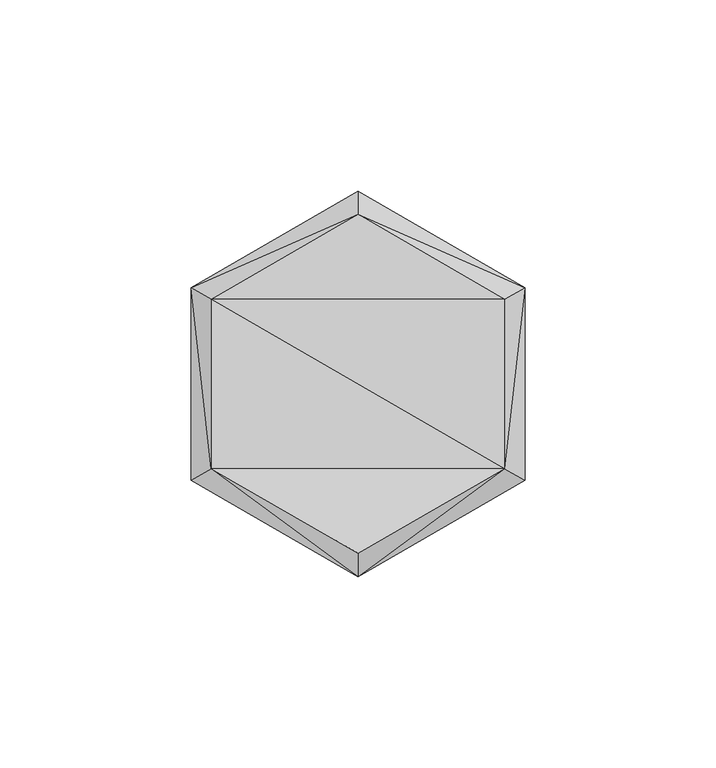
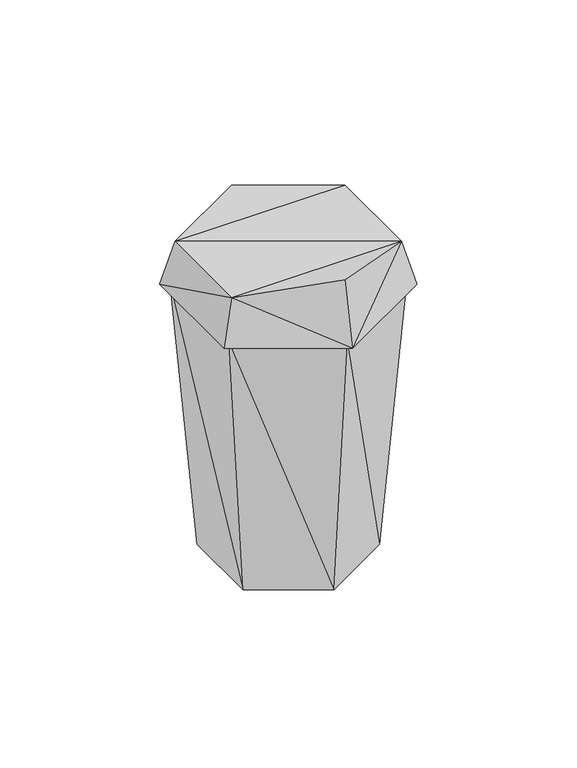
"""IFC4 building model written with IfcOpenShell, lengths in millimetres: geographic element geometry, Enscape AssetDefinition - Papercup, Big : Enscape AssetDefinition - Papercup, Big."""

from ifc_helpers import new_model, si_unit, origin, place, context, project, spatial, faceted_brep, source, transform, mapped, element, save


def geographic_element_4494242b(model_context):
    return source(origin(), model_context, "Body", "Brep", [
        faceted_brep([(30.8935996, -17.8364199, 0.0), (30.8935996, 17.8364199, 0.0), (40.1083566, -23.156561, 124.4610995), (0.0, 35.6728509, 0.0), (40.1083566, 23.156561, 124.4610995), (0.0, 0.0, 0.0), (0.0, -35.6728509, 0.0), (0.0, -46.3131219, 124.4610995), (-30.8935903, -17.836431, 0.0), (-30.8935996, 17.8364199, 0.0), (0.0, 46.3131219, 124.4610995), (43.6556488, 25.204584, 124.4610995), (-40.1083492, 23.156561, 124.4610995), (0.0, 50.4092015, 124.4610995), (-40.1083492, -23.156561, 124.4610995), (-43.6556488, 25.2045933, 124.4610995), (-43.6556377, -25.2046045, 124.4610995), (0.0, 44.3346873, 144.9147761), (-38.3949652, 22.1673381, 144.9147761), (-38.3949652, -22.1673474, 144.9147761), (0.0, -50.4092015, 124.4610995), (0.0, -44.3346873, 153.3923), (38.3949727, -22.1673381, 144.9147761), (38.3949727, 22.1673381, 144.9147761), (43.6556488, -25.2045933, 124.4610995)], [[[0, 1, 2]], [[1, 3, 4]], [[5, 1, 0]], [[5, 3, 1]], [[2, 1, 4]], [[6, 0, 7]], [[5, 0, 6]], [[7, 0, 2]], [[5, 8, 9]], [[5, 6, 8]], [[5, 9, 3]], [[3, 9, 10]], [[4, 3, 10]], [[4, 10, 11]], [[11, 2, 4]], [[10, 12, 13]], [[10, 9, 12]], [[11, 10, 13]], [[9, 8, 12]], [[8, 6, 14]], [[12, 8, 14]], [[14, 6, 7]], [[12, 14, 15]], [[14, 7, 16]], [[15, 14, 16]], [[13, 12, 15]], [[13, 15, 17]], [[17, 11, 13]], [[18, 15, 19]], [[17, 15, 18]], [[19, 15, 16]], [[16, 20, 19]], [[16, 7, 20]], [[19, 21, 22]], [[22, 18, 19]], [[19, 20, 21]], [[18, 22, 23]], [[17, 18, 23]], [[23, 11, 17]], [[22, 11, 23]], [[24, 11, 22]], [[21, 20, 22]], [[22, 20, 24]], [[7, 2, 20]], [[20, 2, 24]], [[24, 2, 11]]]),
    ])


if __name__ == "__main__":
    model = new_model("IFC4")
    model_context = context("Model", 3, world=origin())
    ifc_project = project(units=[si_unit("LENGTHUNIT", "METRE", prefix="MILLI")], contexts=[model_context])
    site = spatial("IfcSite", under=ifc_project)
    building = spatial("IfcBuilding", under=site)
    placement = place(None, origin())
    geographic_element_shape = geographic_element_4494242b(model_context)
    element("IfcGeographicElement", 1, ObjectType="Enscape AssetDefinition - Papercup, Big : Enscape AssetDefinition - Papercup, Big", at=placement, inside=building, context=model_context, shape_type="MappedRepresentation", body=[
        mapped(geographic_element_shape, transform((0.0, 0.0, 0.0), x_axis=(1.0, 0.0, 0.0), y_axis=(0.0, 1.0, 0.0), z_axis=(0.0, 0.0, 1.0))),
    ])
    save(model, "model.ifc")
